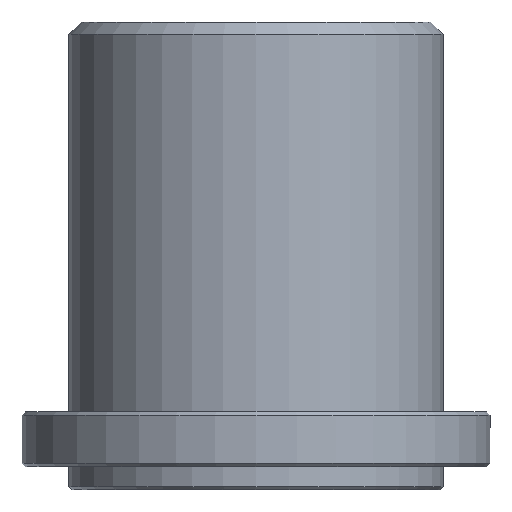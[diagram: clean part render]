
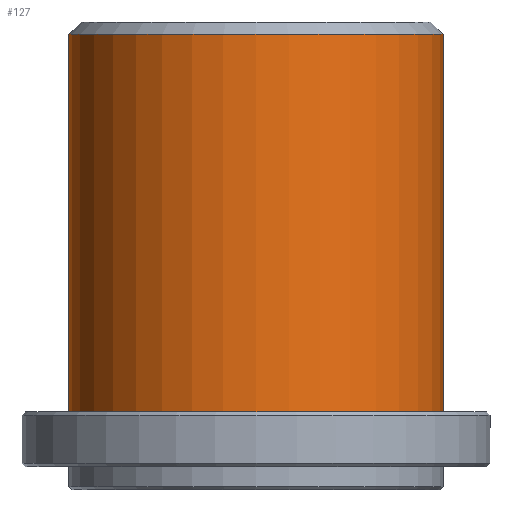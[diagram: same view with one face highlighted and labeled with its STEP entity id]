
A CAD part, front view. The second image highlights one B-rep face of the part: STEP entity #127.
In plain terms, the highlighted cylindrical face has radius 12 mm (diameter 24 mm), a full revolution.
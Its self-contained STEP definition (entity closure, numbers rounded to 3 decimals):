
#127=ADVANCED_FACE('',(#164,#165),#147,.T.);
#147=CYLINDRICAL_SURFACE('',#379,12.);
#164=FACE_BOUND('',#210,.T.);
#165=FACE_BOUND('',#211,.T.);
#210=EDGE_LOOP('',(#256));
#211=EDGE_LOOP('',(#257));
#256=ORIENTED_EDGE('',*,*,#325,.T.);
#257=ORIENTED_EDGE('',*,*,#324,.T.);
#301=VERTEX_POINT('',#529);
#302=VERTEX_POINT('',#532);
#324=EDGE_CURVE('',#301,#301,#347,.T.);
#325=EDGE_CURVE('',#302,#302,#348,.T.);
#347=CIRCLE('',#376,12.);
#348=CIRCLE('',#378,12.);
#376=AXIS2_PLACEMENT_3D('',#528,#440,#441);
#378=AXIS2_PLACEMENT_3D('',#531,#444,#445);
#379=AXIS2_PLACEMENT_3D('',#533,#446,#447);
#440=DIRECTION('',(0.,0.,1.));
#441=DIRECTION('',(1.,0.,0.));
#444=DIRECTION('',(0.,0.,-1.));
#445=DIRECTION('',(1.,0.,0.));
#446=DIRECTION('',(0.,0.,-1.));
#447=DIRECTION('',(-1.,0.,0.));
#528=CARTESIAN_POINT('',(-5.561,-45.573,-179.17));
#529=CARTESIAN_POINT('',(6.439,-45.573,-179.17));
#531=CARTESIAN_POINT('',(-5.561,-45.573,-154.97));
#532=CARTESIAN_POINT('',(6.439,-45.573,-154.97));
#533=CARTESIAN_POINT('',(-5.561,-45.573,-154.17));
